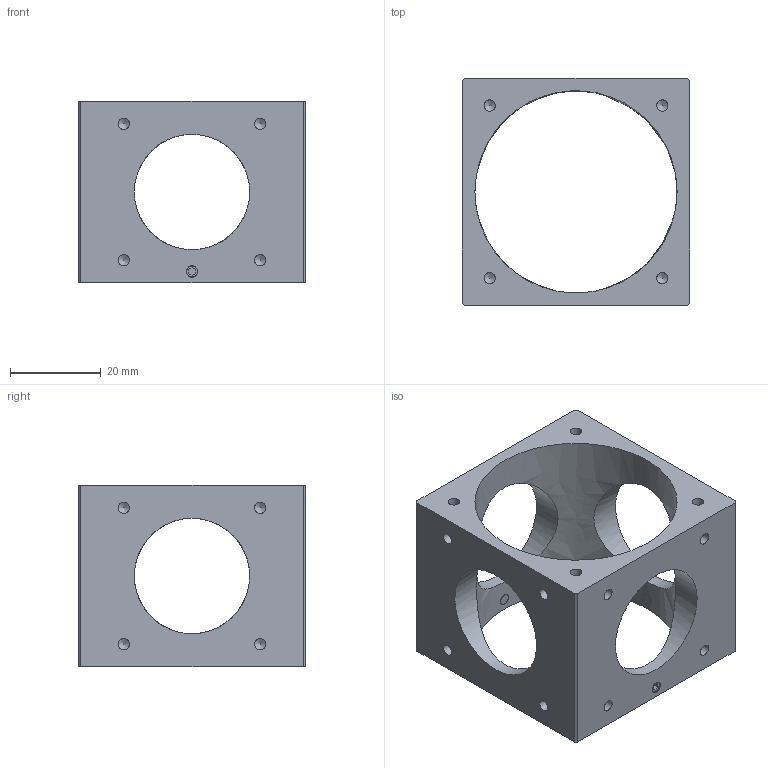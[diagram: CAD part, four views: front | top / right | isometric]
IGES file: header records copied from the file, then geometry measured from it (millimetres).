
Global section: file name: C30-CB-S25.4; native system: Autodesk Inventor 2021; preprocessor: unknown; author: e.nonaka; date: 20220823.113406; units: millimetre
Bounding box: 50 x 50 x 40 mm (x, y, z)
Volume: 29389.6 mm3; surface area: 14152.6 mm2
Topology: 1 solids, 1 shells, 102 faces, 312 edges, 220 vertices
Faces by surface type: bspline 102
